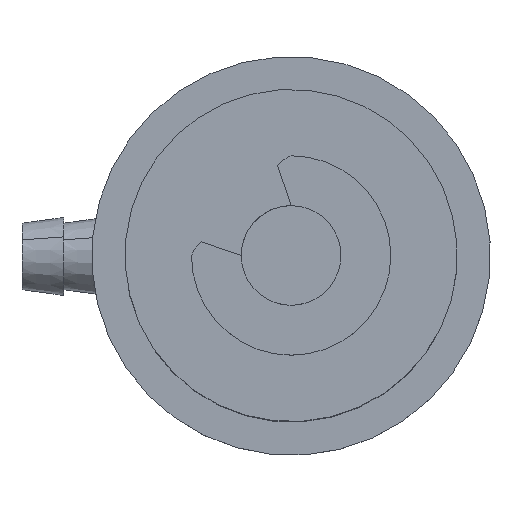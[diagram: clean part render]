
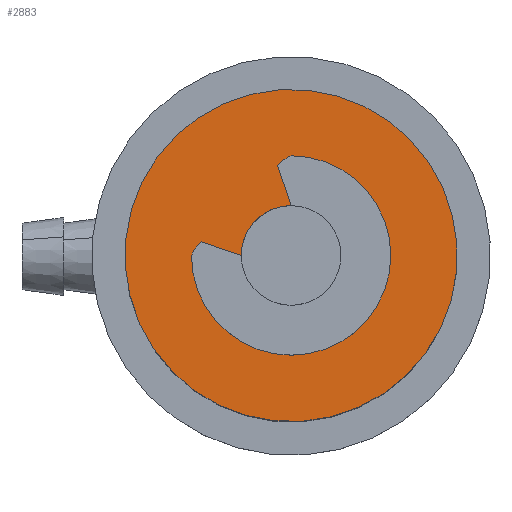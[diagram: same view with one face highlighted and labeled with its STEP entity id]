
A CAD part, top view. The second image highlights one B-rep face of the part: STEP entity #2883.
In plain terms, the highlighted planar face has unit normal (0, 0, 1).
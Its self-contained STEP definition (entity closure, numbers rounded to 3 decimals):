
#320 = DIRECTION ( 'NONE',  ( 0., 0., 1. ) ) ;
#350 = DIRECTION ( 'NONE',  ( 0., 0., 1. ) ) ;
#604 = AXIS2_PLACEMENT_3D ( 'NONE', #4633, #320, #5375 ) ;
#738 = ORIENTED_EDGE ( 'NONE', *, *, #5227, .F. ) ;
#797 = CARTESIAN_POINT ( 'NONE',  ( 1.018, 0.662, 22. ) ) ;
#854 = AXIS2_PLACEMENT_3D ( 'NONE', #4670, #350, #5409 ) ;
#902 = ORIENTED_EDGE ( 'NONE', *, *, #8868, .F. ) ;
#1342 = EDGE_CURVE ( 'NONE', #6409, #2318, #7813, .T. ) ;
#1363 = CARTESIAN_POINT ( 'NONE',  ( 4.01, 0.872, 22. ) ) ;
#1474 = CARTESIAN_POINT ( 'NONE',  ( 1.018, 0.662, 22. ) ) ;
#1514 = DIRECTION ( 'NONE',  ( -0.998, -0.07, 0. ) ) ;
#1907 = CIRCLE ( 'NONE', #7365, 10. ) ;
#2208 = DIRECTION ( 'NONE',  ( 0.998, 0.07, 0. ) ) ;
#2318 = VERTEX_POINT ( 'NONE', #2944 ) ;
#2824 = DIRECTION ( 'NONE',  ( 0., 0., 1. ) ) ;
#2883 = ADVANCED_FACE ( 'NONE', ( #5609, #3900 ), #4607, .T. ) ;
#2944 = CARTESIAN_POINT ( 'NONE',  ( 10.993, 1.364, 22. ) ) ;
#3365 = CIRCLE ( 'NONE', #5225, 3. ) ;
#3879 = CARTESIAN_POINT ( 'NONE',  ( -8.958, -0.041, 22. ) ) ;
#3900 = FACE_OUTER_BOUND ( 'NONE', #4587, .T. ) ;
#3906 = EDGE_LOOP ( 'NONE', ( #902, #738 ) ) ;
#4107 = ORIENTED_EDGE ( 'NONE', *, *, #1342, .T. ) ;
#4284 = CARTESIAN_POINT ( 'NONE',  ( -1.975, 0.451, 22. ) ) ;
#4587 = EDGE_LOOP ( 'NONE', ( #4107, #7871 ) ) ;
#4607 = PLANE ( 'NONE',  #854 ) ;
#4633 = CARTESIAN_POINT ( 'NONE',  ( 1.018, 0.662, 22. ) ) ;
#4670 = CARTESIAN_POINT ( 'NONE',  ( -8.367, -10.144, 22. ) ) ;
#5225 = AXIS2_PLACEMENT_3D ( 'NONE', #1474, #6526, #2208 ) ;
#5227 = EDGE_CURVE ( 'NONE', #8890, #8908, #3365, .T. ) ;
#5375 = DIRECTION ( 'NONE',  ( -0.998, -0.07, 0. ) ) ;
#5409 = DIRECTION ( 'NONE',  ( 0.998, 0.07, 0. ) ) ;
#5429 = CIRCLE ( 'NONE', #8495, 3. ) ;
#5609 = FACE_BOUND ( 'NONE', #3906, .T. ) ;
#5850 = DIRECTION ( 'NONE',  ( 0., 0., 1. ) ) ;
#6409 = VERTEX_POINT ( 'NONE', #3879 ) ;
#6526 = DIRECTION ( 'NONE',  ( 0., 0., 1. ) ) ;
#7148 = CARTESIAN_POINT ( 'NONE',  ( 1.018, 0.662, 22. ) ) ;
#7365 = AXIS2_PLACEMENT_3D ( 'NONE', #797, #5850, #1514 ) ;
#7813 = CIRCLE ( 'NONE', #604, 10. ) ;
#7863 = DIRECTION ( 'NONE',  ( 0.998, 0.07, 0. ) ) ;
#7871 = ORIENTED_EDGE ( 'NONE', *, *, #9081, .T. ) ;
#8495 = AXIS2_PLACEMENT_3D ( 'NONE', #7148, #2824, #7863 ) ;
#8868 = EDGE_CURVE ( 'NONE', #8908, #8890, #5429, .T. ) ;
#8890 = VERTEX_POINT ( 'NONE', #4284 ) ;
#8908 = VERTEX_POINT ( 'NONE', #1363 ) ;
#9081 = EDGE_CURVE ( 'NONE', #2318, #6409, #1907, .T. ) ;
